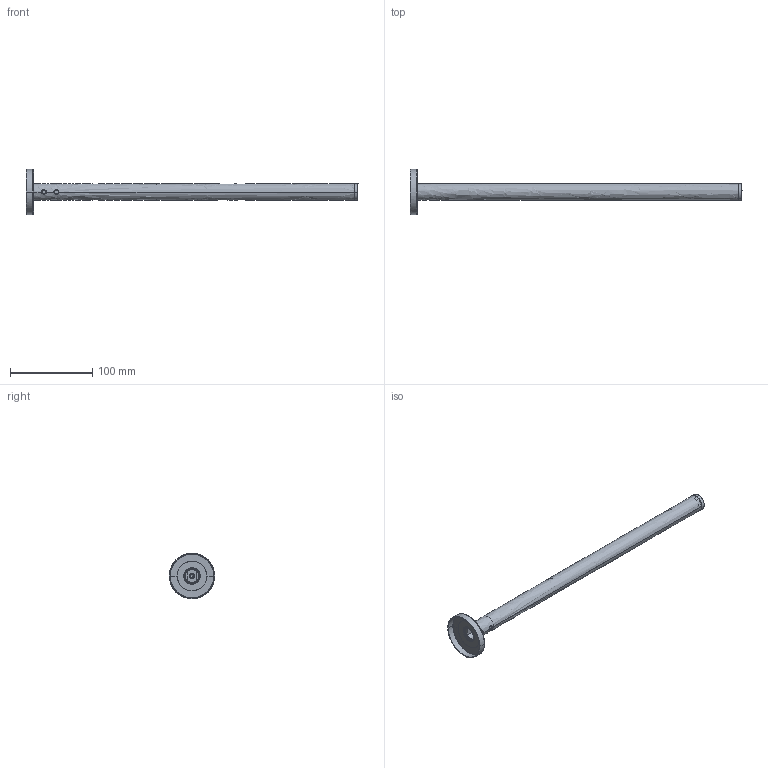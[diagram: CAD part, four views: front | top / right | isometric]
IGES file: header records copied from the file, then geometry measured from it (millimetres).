
Start section: SolidWorks IGES file using NURBS representation for surfaces
Global section: file name: G:\4- VARIOS\9 - Web Files\ARCHITECT S+\235##69-W.IGS; native system: SolidWorks 2016; preprocessor: SolidWorks 2016; author: vegrut01; date: 201027.112458; units: millimetre
Bounding box: 403.25 x 55 x 55 mm (x, y, z)
Surface area: 58436.9 mm2 (no closed solid volume)
Topology: 0 solids, 0 shells, 67 faces, 1616 edges, 1762 vertices
Faces by surface type: bspline 67
